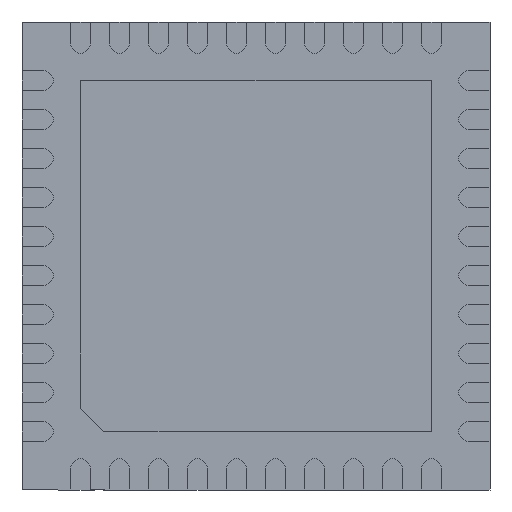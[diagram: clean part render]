
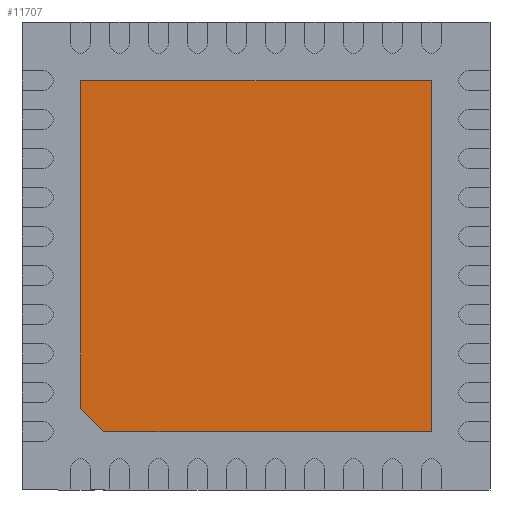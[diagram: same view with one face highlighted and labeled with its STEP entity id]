
A CAD part, front view. The second image highlights one B-rep face of the part: STEP entity #11707.
In plain terms, the highlighted planar face has unit normal (0, -1, 0).
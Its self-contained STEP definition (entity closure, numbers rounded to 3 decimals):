
#92 = VERTEX_POINT ( 'NONE', #3524 ) ;
#144 = DIRECTION ( 'NONE',  ( 0., 0., -1. ) ) ;
#298 = ORIENTED_EDGE ( 'NONE', *, *, #13167, .T. ) ;
#660 = CARTESIAN_POINT ( 'NONE',  ( -2.1, 0., -2.1 ) ) ;
#1255 = VERTEX_POINT ( 'NONE', #8503 ) ;
#1304 = EDGE_LOOP ( 'NONE', ( #10806, #13470, #5611, #298, #10009 ) ) ;
#3262 = VECTOR ( 'NONE', #10030, 1000. ) ;
#3422 = CARTESIAN_POINT ( 'NONE',  ( 2.25, 0., 2.25 ) ) ;
#3524 = CARTESIAN_POINT ( 'NONE',  ( -2.25, 0., 2.25 ) ) ;
#4032 = CARTESIAN_POINT ( 'NONE',  ( 2.25, 0., -2.25 ) ) ;
#4060 = VECTOR ( 'NONE', #9223, 1000. ) ;
#4165 = CARTESIAN_POINT ( 'NONE',  ( -2.25, 0., -2.25 ) ) ;
#4830 = DIRECTION ( 'NONE',  ( 0.707, 0., -0.707 ) ) ;
#5121 = VECTOR ( 'NONE', #4830, 1000. ) ;
#5133 = CARTESIAN_POINT ( 'NONE',  ( 0., 0., 0. ) ) ;
#5611 = ORIENTED_EDGE ( 'NONE', *, *, #12019, .T. ) ;
#6356 = DIRECTION ( 'NONE',  ( 0., 0., -1. ) ) ;
#6420 = LINE ( 'NONE', #4165, #12408 ) ;
#6435 = DIRECTION ( 'NONE',  ( 0., -1., 0. ) ) ;
#6953 = EDGE_CURVE ( 'NONE', #1255, #11680, #7829, .T. ) ;
#7311 = FACE_OUTER_BOUND ( 'NONE', #1304, .T. ) ;
#7441 = CARTESIAN_POINT ( 'NONE',  ( -1.95, 0., -2.25 ) ) ;
#7829 = LINE ( 'NONE', #660, #5121 ) ;
#8056 = CARTESIAN_POINT ( 'NONE',  ( 2.25, 0., -2.25 ) ) ;
#8186 = DIRECTION ( 'NONE',  ( 0., 0., 1. ) ) ;
#8503 = CARTESIAN_POINT ( 'NONE',  ( -2.25, 0., -1.95 ) ) ;
#8694 = EDGE_CURVE ( 'NONE', #11838, #92, #11551, .T. ) ;
#8763 = VERTEX_POINT ( 'NONE', #10381 ) ;
#9163 = VECTOR ( 'NONE', #8186, 1000. ) ;
#9223 = DIRECTION ( 'NONE',  ( -1., 0., 0. ) ) ;
#9423 = CARTESIAN_POINT ( 'NONE',  ( 2.25, 0., 2.25 ) ) ;
#10009 = ORIENTED_EDGE ( 'NONE', *, *, #8694, .T. ) ;
#10030 = DIRECTION ( 'NONE',  ( 1., 0., 0. ) ) ;
#10219 = AXIS2_PLACEMENT_3D ( 'NONE', #5133, #6435, #144 ) ;
#10381 = CARTESIAN_POINT ( 'NONE',  ( 2.25, 0., -2.25 ) ) ;
#10564 = PLANE ( 'NONE',  #10219 ) ;
#10806 = ORIENTED_EDGE ( 'NONE', *, *, #12091, .T. ) ;
#11265 = LINE ( 'NONE', #4032, #9163 ) ;
#11551 = LINE ( 'NONE', #9423, #4060 ) ;
#11680 = VERTEX_POINT ( 'NONE', #7441 ) ;
#11707 = ADVANCED_FACE ( 'NONE', ( #7311 ), #10564, .T. ) ;
#11838 = VERTEX_POINT ( 'NONE', #3422 ) ;
#12019 = EDGE_CURVE ( 'NONE', #11680, #8763, #12081, .T. ) ;
#12081 = LINE ( 'NONE', #8056, #3262 ) ;
#12091 = EDGE_CURVE ( 'NONE', #92, #1255, #6420, .T. ) ;
#12408 = VECTOR ( 'NONE', #6356, 1000. ) ;
#13167 = EDGE_CURVE ( 'NONE', #8763, #11838, #11265, .T. ) ;
#13470 = ORIENTED_EDGE ( 'NONE', *, *, #6953, .T. ) ;
